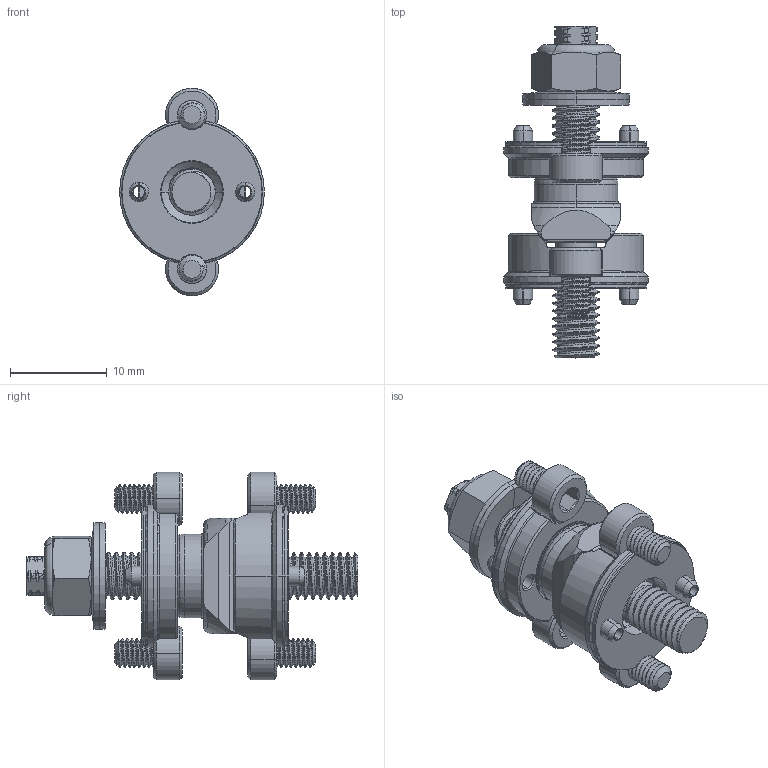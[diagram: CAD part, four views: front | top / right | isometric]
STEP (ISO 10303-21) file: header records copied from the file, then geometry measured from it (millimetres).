
FILE_DESCRIPTION (( 'STEP AP214' ), '1' );
FILE_NAME ('SPH10-STK-FR-T Through Fixed Retainer Stack (noPlates).STEP', '2026-03-17T22:05:14', ( '' ), ( '' ), 'SwSTEP 2.0', 'SolidWorks 2022', '' );
FILE_SCHEMA (( 'AUTOMOTIVE_DESIGN' ));
Length unit declared in the file: millimetre
Products named in the file (14): SPH10-BV Vee Block_grinding; SPH10-BC Cone Block_Grinding; SPH10a-TOP_Through-noPlate; SPH10a-NUT-FR-T; SPH10a-BTM-FR_Through-noPlate; SPH10-GEOMETRY; SPH10-SP Spherolinder_Grinding ; SPH10-RF Fixed Retainer_Through; SPH10h-WRB Beleville Retainer Washer MCM_9713K15 .22x.437x.023x.034 Corrosion-Resistant Belleville Disc Spring_9713K15; SPH10h-SI Installation Screw MCM_91292A109 M3x4.0 18-8 Stainless Steel Socket Head Screw_91292A109; SPH10-STK-FR-T Through Fixed Retainer Stack (noPlates); SPH10h-PC Slotted Spring Pin MCM_91610A200 M2x4.0 18-8 STAINLESS STEEL SLOTTED SPRING PIN_Closed; SPH10h-NR Retainer Nut MCM_90543A110 M5x0.8 Lock Nut 18-8 Stainless Steel Spring-Stop Locknut_90543A110; SPH10h-RR Retainer Ring MCM_9433K234 .188x.127x.031 302 Stainless Steel Corrosion-Resistant Extension Spring with Loop Ends_Pried Open
Assembly tree (19 placements, depth 3):
  SPH10-GEOMETRY
  SPH10-STK-FR-T Through Fixed Retainer Stack (noPlates)
    SPH10a-BTM-FR_Through-noPlate
      SPH10-BV Vee Block_grinding
      SPH10-SP Spherolinder_Grinding 
      SPH10-RF Fixed Retainer_Through
      SPH10h-RR Retainer Ring MCM_9433K234 .188x.127x.031 302 Stainless Steel Corrosion-Resistant Extension Spring with Loop Ends_Pried Open
      SPH10h-SI Installation Screw MCM_91292A109 M3x4.0 18-8 Stainless Steel Socket Head Screw_91292A109  x2
      SPH10h-PC Slotted Spring Pin MCM_91610A200 M2x4.0 18-8 STAINLESS STEEL SLOTTED SPRING PIN_Closed  x2
    SPH10a-TOP_Through-noPlate
      SPH10-BC Cone Block_Grinding
      SPH10h-PC Slotted Spring Pin MCM_91610A200 M2x4.0 18-8 STAINLESS STEEL SLOTTED SPRING PIN_Closed  x2
      SPH10h-SI Installation Screw MCM_91292A109 M3x4.0 18-8 Stainless Steel Socket Head Screw_91292A109  x2
    SPH10a-NUT-FR-T
      SPH10h-WRB Beleville Retainer Washer MCM_9713K15 .22x.437x.023x.034 Corrosion-Resistant Belleville Disc Spring_9713K15  x2
      SPH10h-NR Retainer Nut MCM_90543A110 M5x0.8 Lock Nut 18-8 Stainless Steel Spring-Stop Locknut_90543A110
Bounding box: 15 x 34.4 x 21.5 mm (x, y, z)
Volume: 2576.7 mm3; surface area: 3846.9 mm2
Topology: 16 solids, 16 shells, 823 faces, 2136 edges, 1355 vertices
Faces by surface type: cylinder 364, cone 174, plane 125, bspline 116, torus 40, sphere 4
Entity records: 63228 total; most frequent: CARTESIAN_POINT 49481, ORIENTED_EDGE 3154, DIRECTION 2290, EDGE_CURVE 1577, VERTEX_POINT 1005, AXIS2_PLACEMENT_3D 925, EDGE_LOOP 620, ADVANCED_FACE 596
